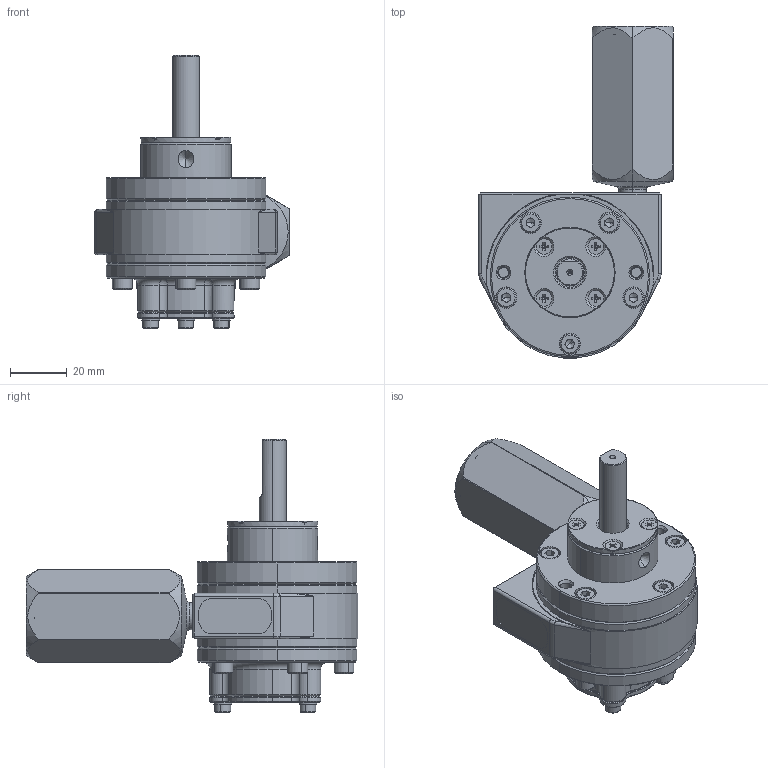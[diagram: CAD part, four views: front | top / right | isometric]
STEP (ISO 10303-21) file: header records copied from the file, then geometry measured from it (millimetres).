
FILE_DESCRIPTION (( 'STEP AP214' ), '1' );
FILE_NAME ('1VMT-SS (Hub).STEP', '2026-04-23T05:51:18', ( '' ), ( '' ), 'SwSTEP 2.0', 'SolidWorks 2017', '' );
FILE_SCHEMA (( 'AUTOMOTIVE_DESIGN' ));
Length unit declared in the file: millimetre
Products named in the file (2): 1VMT-SS (Hub)
Bounding box: 68.25 x 116.48 x 95.88 mm (x, y, z)
Surface area: 55755.6 mm2 (no closed solid volume)
Topology: 0 solids, 37 shells, 1277 faces, 3115 edges, 1884 vertices
Faces by surface type: plane 479, cone 366, cylinder 336, torus 79, bspline 10, sphere 7
Entity records: 52874 total; most frequent: CARTESIAN_POINT 8571, DIRECTION 6697, ORIENTED_EDGE 5873, EDGE_CURVE 3041, AXIS2_PLACEMENT_3D 2568, VERTEX_POINT 1882, LINE 1561, VECTOR 1561
